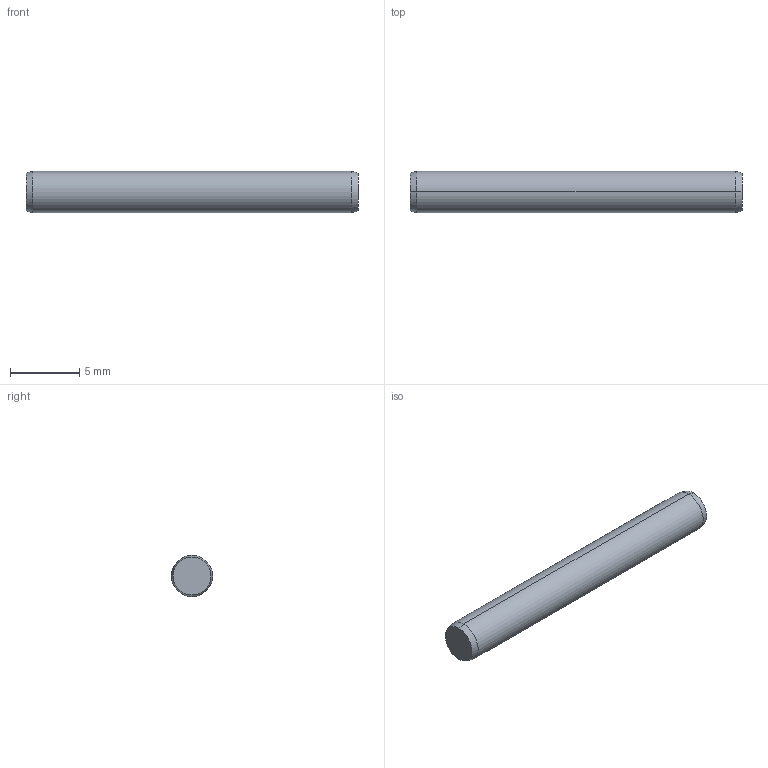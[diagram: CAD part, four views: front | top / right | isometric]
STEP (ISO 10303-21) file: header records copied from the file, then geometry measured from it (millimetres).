
FILE_DESCRIPTION (( 'STEP AP203' ), '1' );
FILE_NAME ('P1206.030-024.step', '2017-06-14T08:05:37', ( 'User' ), ( '' ), 'SwSTEP 2.0', 'SolidWorks 2009', '' );
FILE_SCHEMA (( 'CONFIG_CONTROL_DESIGN' ));
Length unit declared in the file: millimetre
Products named in the file (1): P1206.030-024
Bounding box: 24 x 3 x 3 mm (x, y, z)
Volume: 169 mm3; surface area: 237.8 mm2
Topology: 1 solids, 1 shells, 8 faces, 14 edges, 8 vertices
Faces by surface type: cone 4, cylinder 2, plane 2
Entity records: 271 total; most frequent: DIRECTION 40, CARTESIAN_POINT 31, ORIENTED_EDGE 28, AXIS2_PLACEMENT_3D 17, EDGE_CURVE 14, FACE_OUTER_BOUND 8, CIRCLE 8, ADVANCED_FACE 8
